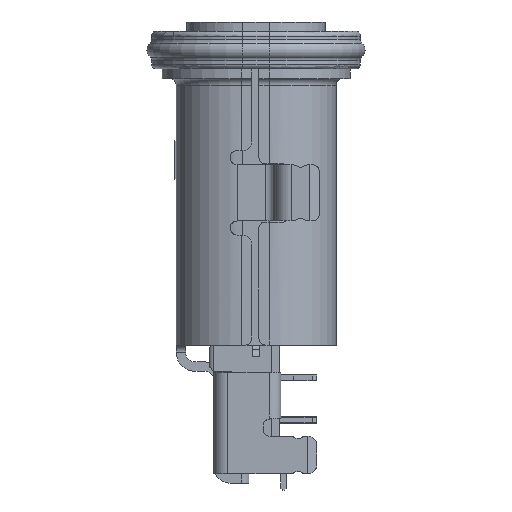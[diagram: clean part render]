
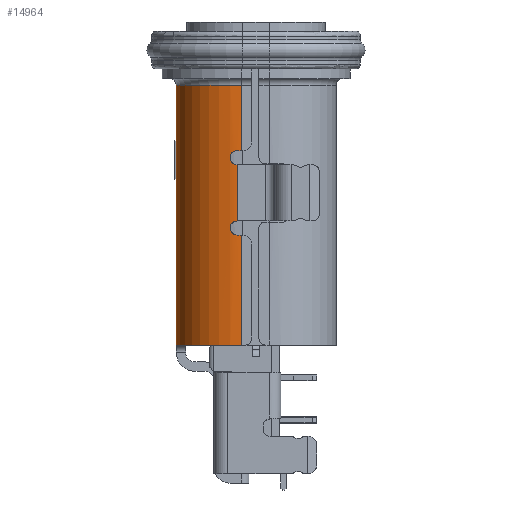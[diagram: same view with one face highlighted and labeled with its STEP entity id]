
A CAD part, left-side view. The second image highlights one B-rep face of the part: STEP entity #14964.
In plain terms, the highlighted cylindrical face has radius 1.4 mm (diameter 2.8 mm), a partial arc.
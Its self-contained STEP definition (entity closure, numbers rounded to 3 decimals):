
#99 = VECTOR ( 'NONE', #25541, 1000. ) ;
#351 = CARTESIAN_POINT ( 'NONE',  ( -47.678, 4.342, -1.155 ) ) ;
#743 = EDGE_CURVE ( 'NONE', #2579, #9540, #12567, .T. ) ;
#756 = VERTEX_POINT ( 'NONE', #45978 ) ;
#1372 = DIRECTION ( 'NONE',  ( 0., 0., 1. ) ) ;
#1476 = CIRCLE ( 'NONE', #43822, 1.4 ) ;
#1867 = CARTESIAN_POINT ( 'NONE',  ( -49.06, 4.562, 1.253 ) ) ;
#2157 = AXIS2_PLACEMENT_3D ( 'NONE', #44305, #25863, #34796 ) ;
#2579 = VERTEX_POINT ( 'NONE', #31848 ) ;
#2901 = ORIENTED_EDGE ( 'NONE', *, *, #24500, .T. ) ;
#4996 = EDGE_LOOP ( 'NONE', ( #10281, #38375, #39102, #55105, #22529, #2901, #55092, #33969, #35222, #19894, #32175 ) ) ;
#5026 = CIRCLE ( 'NONE', #32627, 1.4 ) ;
#5572 = CARTESIAN_POINT ( 'NONE',  ( -49.055, 4.592, 2.825 ) ) ;
#5706 = CARTESIAN_POINT ( 'NONE',  ( -49.078, 4.342, -1.155 ) ) ;
#6353 = VERTEX_POINT ( 'NONE', #43356 ) ;
#6830 = CARTESIAN_POINT ( 'NONE',  ( -49.06, 4.562, 2.753 ) ) ;
#7967 = CARTESIAN_POINT ( 'NONE',  ( -49.074, 4.442, 2.695 ) ) ;
#8336 = VERTEX_POINT ( 'NONE', #22458 ) ;
#8620 = VERTEX_POINT ( 'NONE', #31258 ) ;
#9540 = VERTEX_POINT ( 'NONE', #44310 ) ;
#9742 = EDGE_CURVE ( 'NONE', #40153, #27098, #5026, .T. ) ;
#10217 = EDGE_CURVE ( 'NONE', #756, #8336, #18817, .T. ) ;
#10281 = ORIENTED_EDGE ( 'NONE', *, *, #34610, .T. ) ;
#10422 = DIRECTION ( 'NONE',  ( 0., 0., 1. ) ) ;
#10494 = CARTESIAN_POINT ( 'NONE',  ( -49.055, 4.592, 1.345 ) ) ;
#10936 = DIRECTION ( 'NONE',  ( 0., 0., -1. ) ) ;
#11648 = CARTESIAN_POINT ( 'NONE',  ( -49.056, 4.588, 1.305 ) ) ;
#12567 = B_SPLINE_CURVE_WITH_KNOTS ( 'NONE', 3,
 ( #33263, #28674, #54933, #1867, #55772, #11648, #54650, #41358 ),
 .UNSPECIFIED., .F., .F.,
 ( 4, 2, 2, 4 ),
 ( 0., 0.25, 0.375, 0.5 ),
 .UNSPECIFIED. ) ;
#13464 = EDGE_CURVE ( 'NONE', #47981, #34392, #1476, .T. ) ;
#13620 = DIRECTION ( 'NONE',  ( -1., 0., 0. ) ) ;
#14213 = CARTESIAN_POINT ( 'NONE',  ( -49.074, 4.442, 2.995 ) ) ;
#14241 = CARTESIAN_POINT ( 'NONE',  ( -49.071, 4.482, 1.495 ) ) ;
#14504 = CARTESIAN_POINT ( 'NONE',  ( -49.055, 4.592, 2.884 ) ) ;
#14964 = ADVANCED_FACE ( 'NONE', ( #44178 ), #39842, .T. ) ;
#16592 = EDGE_CURVE ( 'NONE', #27098, #8336, #19870, .T. ) ;
#17950 = DIRECTION ( 'NONE',  ( 0., 0., 1. ) ) ;
#18817 = CIRCLE ( 'NONE', #51042, 1.4 ) ;
#19149 = CARTESIAN_POINT ( 'NONE',  ( -49.055, 4.592, 1.384 ) ) ;
#19428 = DIRECTION ( 'NONE',  ( 1., 0., 0. ) ) ;
#19870 = LINE ( 'NONE', #50168, #33377 ) ;
#19894 = ORIENTED_EDGE ( 'NONE', *, *, #16592, .T. ) ;
#20357 = LINE ( 'NONE', #29861, #99 ) ;
#21693 = DIRECTION ( 'NONE',  ( 1., 0., 0. ) ) ;
#22084 = VECTOR ( 'NONE', #10422, 1000. ) ;
#22301 = CARTESIAN_POINT ( 'NONE',  ( -49.074, 4.442, 1.495 ) ) ;
#22458 = CARTESIAN_POINT ( 'NONE',  ( -47.678, 5.742, -1.155 ) ) ;
#22529 = ORIENTED_EDGE ( 'NONE', *, *, #57038, .T. ) ;
#24418 = CARTESIAN_POINT ( 'NONE',  ( -49.058, 4.573, 2.769 ) ) ;
#24500 = EDGE_CURVE ( 'NONE', #8620, #34392, #36024, .T. ) ;
#25541 = DIRECTION ( 'NONE',  ( 0., 0., 1. ) ) ;
#25800 = DIRECTION ( 'NONE',  ( 1., 0., 0. ) ) ;
#25863 = DIRECTION ( 'NONE',  ( 0., 0., -1. ) ) ;
#27098 = VERTEX_POINT ( 'NONE', #54972 ) ;
#27524 = EDGE_CURVE ( 'NONE', #9540, #53472, #49545, .T. ) ;
#27797 = CARTESIAN_POINT ( 'NONE',  ( -47.678, 4.342, 2.995 ) ) ;
#28368 = CARTESIAN_POINT ( 'NONE',  ( -49.074, 4.442, 1.495 ) ) ;
#28674 = CARTESIAN_POINT ( 'NONE',  ( -49.071, 4.482, 1.195 ) ) ;
#29861 = CARTESIAN_POINT ( 'NONE',  ( -49.078, 4.342, -1.155 ) ) ;
#31258 = CARTESIAN_POINT ( 'NONE',  ( -49.074, 4.442, 2.695 ) ) ;
#31483 = DIRECTION ( 'NONE',  ( 0., 0., -1. ) ) ;
#31848 = CARTESIAN_POINT ( 'NONE',  ( -49.074, 4.442, 1.195 ) ) ;
#32175 = ORIENTED_EDGE ( 'NONE', *, *, #10217, .F. ) ;
#32627 = AXIS2_PLACEMENT_3D ( 'NONE', #34150, #56389, #25800 ) ;
#32785 = LINE ( 'NONE', #5706, #37308 ) ;
#33263 = CARTESIAN_POINT ( 'NONE',  ( -49.074, 4.442, 1.195 ) ) ;
#33377 = VECTOR ( 'NONE', #10936, 1000. ) ;
#33969 = ORIENTED_EDGE ( 'NONE', *, *, #51859, .T. ) ;
#34150 = CARTESIAN_POINT ( 'NONE',  ( -47.678, 4.342, 4.395 ) ) ;
#34392 = VERTEX_POINT ( 'NONE', #44610 ) ;
#34610 = EDGE_CURVE ( 'NONE', #756, #6353, #20357, .T. ) ;
#34796 = DIRECTION ( 'NONE',  ( 1., 0., 0. ) ) ;
#35222 = ORIENTED_EDGE ( 'NONE', *, *, #9742, .T. ) ;
#36024 = B_SPLINE_CURVE_WITH_KNOTS ( 'NONE', 3,
 ( #7967, #43134, #52889, #6830, #24418, #42004, #5572, #14504, #40162, #39881, #45061, #14213 ),
 .UNSPECIFIED., .F., .F.,
 ( 4, 2, 2, 2, 2, 4 ),
 ( 0., 0.25, 0.375, 0.5, 0.75, 1. ),
 .UNSPECIFIED. ) ;
#36710 = DIRECTION ( 'NONE',  ( 0., 0., -1. ) ) ;
#36922 = CARTESIAN_POINT ( 'NONE',  ( -49.074, 4.442, -1.155 ) ) ;
#37059 = EDGE_CURVE ( 'NONE', #6353, #2579, #45417, .T. ) ;
#37308 = VECTOR ( 'NONE', #1372, 1000. ) ;
#38112 = CARTESIAN_POINT ( 'NONE',  ( -49.078, 4.342, 2.995 ) ) ;
#38375 = ORIENTED_EDGE ( 'NONE', *, *, #37059, .T. ) ;
#39102 = ORIENTED_EDGE ( 'NONE', *, *, #743, .T. ) ;
#39842 = CYLINDRICAL_SURFACE ( 'NONE', #52757, 1.4 ) ;
#39881 = CARTESIAN_POINT ( 'NONE',  ( -49.067, 4.52, 2.979 ) ) ;
#40153 = VERTEX_POINT ( 'NONE', #50008 ) ;
#40162 = CARTESIAN_POINT ( 'NONE',  ( -49.058, 4.576, 2.923 ) ) ;
#41358 = CARTESIAN_POINT ( 'NONE',  ( -49.055, 4.592, 1.345 ) ) ;
#42004 = CARTESIAN_POINT ( 'NONE',  ( -49.056, 4.588, 2.805 ) ) ;
#43134 = CARTESIAN_POINT ( 'NONE',  ( -49.071, 4.482, 2.695 ) ) ;
#43356 = CARTESIAN_POINT ( 'NONE',  ( -49.078, 4.342, 1.195 ) ) ;
#43612 = CARTESIAN_POINT ( 'NONE',  ( -47.678, 4.342, -1.155 ) ) ;
#43822 = AXIS2_PLACEMENT_3D ( 'NONE', #27797, #36710, #19428 ) ;
#44178 = FACE_OUTER_BOUND ( 'NONE', #4996, .T. ) ;
#44305 = CARTESIAN_POINT ( 'NONE',  ( -47.678, 4.342, 1.195 ) ) ;
#44310 = CARTESIAN_POINT ( 'NONE',  ( -49.055, 4.592, 1.345 ) ) ;
#44610 = CARTESIAN_POINT ( 'NONE',  ( -49.074, 4.442, 2.995 ) ) ;
#45061 = CARTESIAN_POINT ( 'NONE',  ( -49.071, 4.482, 2.995 ) ) ;
#45417 = CIRCLE ( 'NONE', #2157, 1.4 ) ;
#45660 = CARTESIAN_POINT ( 'NONE',  ( -49.058, 4.576, 1.423 ) ) ;
#45978 = CARTESIAN_POINT ( 'NONE',  ( -49.078, 4.342, -1.155 ) ) ;
#46715 = LINE ( 'NONE', #36922, #22084 ) ;
#47981 = VERTEX_POINT ( 'NONE', #38112 ) ;
#49545 = B_SPLINE_CURVE_WITH_KNOTS ( 'NONE', 3,
 ( #10494, #19149, #45660, #54906, #14241, #28368 ),
 .UNSPECIFIED., .F., .F.,
 ( 4, 2, 4 ),
 ( 0.5, 0.75, 1. ),
 .UNSPECIFIED. ) ;
#50008 = CARTESIAN_POINT ( 'NONE',  ( -49.078, 4.342, 4.395 ) ) ;
#50168 = CARTESIAN_POINT ( 'NONE',  ( -47.678, 5.742, -1.155 ) ) ;
#51042 = AXIS2_PLACEMENT_3D ( 'NONE', #43612, #31483, #21693 ) ;
#51859 = EDGE_CURVE ( 'NONE', #47981, #40153, #32785, .T. ) ;
#52757 = AXIS2_PLACEMENT_3D ( 'NONE', #351, #17950, #13620 ) ;
#52889 = CARTESIAN_POINT ( 'NONE',  ( -49.067, 4.519, 2.71 ) ) ;
#53472 = VERTEX_POINT ( 'NONE', #22301 ) ;
#54650 = CARTESIAN_POINT ( 'NONE',  ( -49.055, 4.592, 1.326 ) ) ;
#54906 = CARTESIAN_POINT ( 'NONE',  ( -49.067, 4.52, 1.479 ) ) ;
#54933 = CARTESIAN_POINT ( 'NONE',  ( -49.067, 4.519, 1.21 ) ) ;
#54972 = CARTESIAN_POINT ( 'NONE',  ( -47.678, 5.742, 4.395 ) ) ;
#55092 = ORIENTED_EDGE ( 'NONE', *, *, #13464, .F. ) ;
#55105 = ORIENTED_EDGE ( 'NONE', *, *, #27524, .T. ) ;
#55772 = CARTESIAN_POINT ( 'NONE',  ( -49.058, 4.573, 1.269 ) ) ;
#56389 = DIRECTION ( 'NONE',  ( 0., 0., -1. ) ) ;
#57038 = EDGE_CURVE ( 'NONE', #53472, #8620, #46715, .T. ) ;
